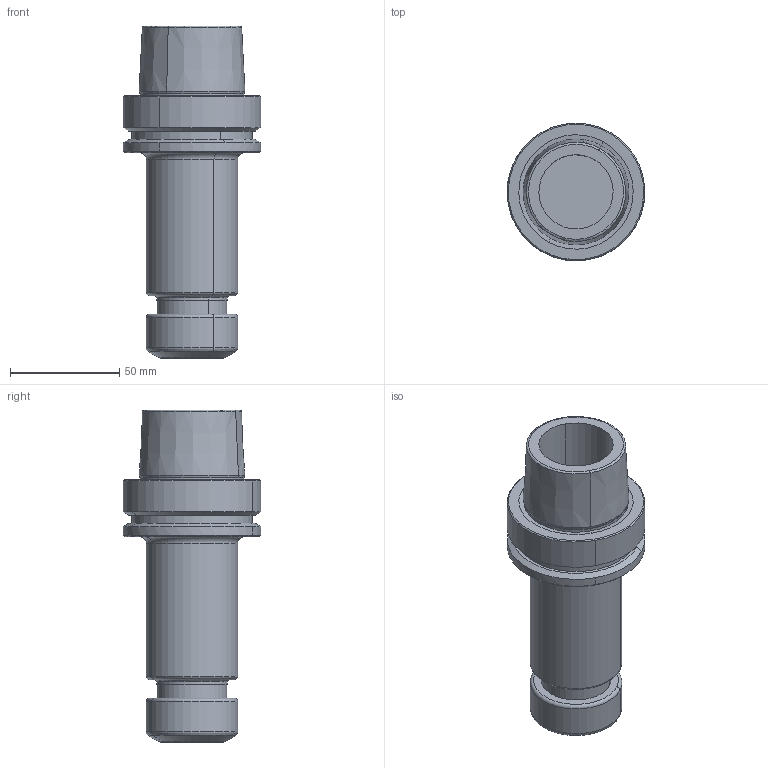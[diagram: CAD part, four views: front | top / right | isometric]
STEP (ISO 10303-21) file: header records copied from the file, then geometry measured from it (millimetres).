
FILE_DESCRIPTION(('CATIA V5 STEP','CAx-IF Rec.Pracs.--- Model Styling and Organization---1.2---2011-12-15'),'2;1');
FILE_NAME('\\nas01\drv1\utils\eitdev\rte\eit\transmagicconvert\db\out\635930282510144846\4561149-L-B.stp','2016-03-08T08:04:23+00:00',('none'),('none'),'CATIA Version 5 Release 21 SP 5 (IN-10)','CATIA V5 STEP AP214','none');
FILE_SCHEMA(('AUTOMOTIVE_DESIGN { 1 0 10303 214 1 1 1 1 }'));
Length unit declared in the file: millimetre
Products named in the file (1): HSK A 63 ER25X120
Bounding box: 62.98 x 63 x 152 mm (x, y, z)
Volume: 202566 mm3; surface area: 36652.6 mm2
Topology: 1 solids, 1 shells, 72 faces, 156 edges, 93 vertices
Faces by surface type: cylinder 24, cone 22, torus 16, plane 10
Entity records: 1835 total; most frequent: CARTESIAN_POINT 396, ORIENTED_EDGE 308, DIRECTION 234, EDGE_CURVE 154, AXIS2_PLACEMENT_3D 146, CIRCLE 102, VERTEX_POINT 93, EDGE_LOOP 81
